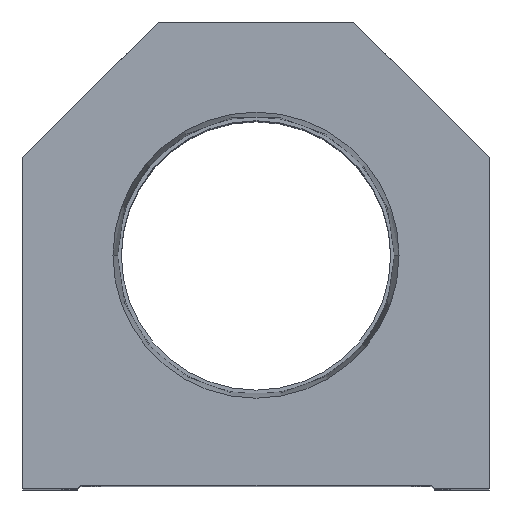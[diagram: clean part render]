
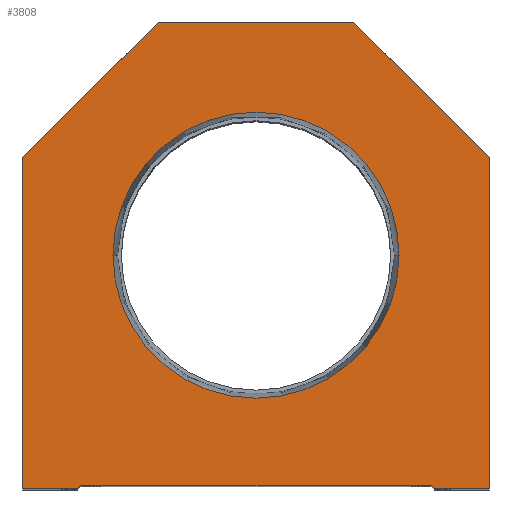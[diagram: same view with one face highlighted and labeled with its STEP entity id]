
A CAD part, top view. The second image highlights one B-rep face of the part: STEP entity #3808.
In plain terms, the highlighted planar face has unit normal (0, 0, 1).
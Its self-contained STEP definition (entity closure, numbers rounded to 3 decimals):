
#118 = CARTESIAN_POINT ( 'NONE',  ( 29.1, 0., 0. ) ) ;
#178 = LINE ( 'NONE', #8026, #19433 ) ;
#514 = CARTESIAN_POINT ( 'NONE',  ( -28.6, 0.5, 0. ) ) ;
#520 = EDGE_CURVE ( 'NONE', #16149, #2068, #6796, .T. ) ;
#555 = VERTEX_POINT ( 'NONE', #10152 ) ;
#593 = EDGE_CURVE ( 'NONE', #16658, #1455, #178, .T. ) ;
#652 = VECTOR ( 'NONE', #17165, 1000. ) ;
#1197 = FACE_OUTER_BOUND ( 'NONE', #16635, .T. ) ;
#1455 = VERTEX_POINT ( 'NONE', #6357 ) ;
#1544 = VECTOR ( 'NONE', #9316, 1000. ) ;
#1639 = ORIENTED_EDGE ( 'NONE', *, *, #7529, .F. ) ;
#1863 = CARTESIAN_POINT ( 'NONE',  ( -38.1, 54.1, 0. ) ) ;
#1914 = CARTESIAN_POINT ( 'NONE',  ( -28.6, 0.5, 0. ) ) ;
#2068 = VERTEX_POINT ( 'NONE', #9259 ) ;
#2313 = DIRECTION ( 'NONE',  ( 0.707, -0.707, 0. ) ) ;
#2501 = EDGE_CURVE ( 'NONE', #16608, #19565, #13563, .T. ) ;
#2530 = EDGE_CURVE ( 'NONE', #3235, #7613, #10860, .T. ) ;
#3235 = VERTEX_POINT ( 'NONE', #118 ) ;
#3338 = LINE ( 'NONE', #6369, #11988 ) ;
#3415 = DIRECTION ( 'NONE',  ( -0.707, 0.707, 0. ) ) ;
#3808 = ADVANCED_FACE ( 'NONE', ( #17285, #1197 ), #20113, .T. ) ;
#3879 = LINE ( 'NONE', #8488, #4481 ) ;
#4303 = CARTESIAN_POINT ( 'NONE',  ( -38.1, 0., 0. ) ) ;
#4481 = VECTOR ( 'NONE', #2313, 1000. ) ;
#4548 = DIRECTION ( 'NONE',  ( 1., 0., 0. ) ) ;
#5084 = VECTOR ( 'NONE', #13153, 1000. ) ;
#5138 = CARTESIAN_POINT ( 'NONE',  ( -23.374, 38.1, 0. ) ) ;
#5225 = DIRECTION ( 'NONE',  ( 1., 0., 0. ) ) ;
#5238 = CARTESIAN_POINT ( 'NONE',  ( 38.1, 54.1, 0. ) ) ;
#6002 = EDGE_LOOP ( 'NONE', ( #1639, #10925 ) ) ;
#6032 = DIRECTION ( 'NONE',  ( 0., 0., 1. ) ) ;
#6054 = CARTESIAN_POINT ( 'NONE',  ( 0., 38.1, 0. ) ) ;
#6237 = CARTESIAN_POINT ( 'NONE',  ( -16., 76.2, 0. ) ) ;
#6357 = CARTESIAN_POINT ( 'NONE',  ( 16., 76.2, 0. ) ) ;
#6369 = CARTESIAN_POINT ( 'NONE',  ( 38.1, 0., 0. ) ) ;
#6374 = LINE ( 'NONE', #10872, #19325 ) ;
#6796 = LINE ( 'NONE', #514, #5084 ) ;
#6907 = ORIENTED_EDGE ( 'NONE', *, *, #593, .T. ) ;
#7421 = DIRECTION ( 'NONE',  ( 1., 0., 0. ) ) ;
#7529 = EDGE_CURVE ( 'NONE', #19565, #16608, #8431, .T. ) ;
#7613 = VERTEX_POINT ( 'NONE', #7855 ) ;
#7855 = CARTESIAN_POINT ( 'NONE',  ( 38.1, 0., 0. ) ) ;
#8026 = CARTESIAN_POINT ( 'NONE',  ( 38.1, 54.1, 0. ) ) ;
#8287 = AXIS2_PLACEMENT_3D ( 'NONE', #14922, #10249, #5225 ) ;
#8431 = CIRCLE ( 'NONE', #20087, 23.374 ) ;
#8488 = CARTESIAN_POINT ( 'NONE',  ( 14.55, 14.55, 0. ) ) ;
#8554 = DIRECTION ( 'NONE',  ( -0.707, -0.707, 0. ) ) ;
#9189 = EDGE_CURVE ( 'NONE', #2068, #3235, #3879, .T. ) ;
#9242 = CARTESIAN_POINT ( 'NONE',  ( 16., 76.2, 0. ) ) ;
#9259 = CARTESIAN_POINT ( 'NONE',  ( 28.6, 0.5, 0. ) ) ;
#9316 = DIRECTION ( 'NONE',  ( 1., 0., 0. ) ) ;
#9480 = VERTEX_POINT ( 'NONE', #1863 ) ;
#9637 = DIRECTION ( 'NONE',  ( 0.707, 0.707, 0. ) ) ;
#9701 = VECTOR ( 'NONE', #8554, 1000. ) ;
#9918 = ORIENTED_EDGE ( 'NONE', *, *, #15688, .T. ) ;
#10152 = CARTESIAN_POINT ( 'NONE',  ( -29.1, 0., 0. ) ) ;
#10249 = DIRECTION ( 'NONE',  ( 0., 0., 1. ) ) ;
#10499 = DIRECTION ( 'NONE',  ( -1., 0., 0. ) ) ;
#10818 = LINE ( 'NONE', #12371, #652 ) ;
#10860 = LINE ( 'NONE', #18682, #1544 ) ;
#10872 = CARTESIAN_POINT ( 'NONE',  ( -14.55, 14.55, 0. ) ) ;
#10925 = ORIENTED_EDGE ( 'NONE', *, *, #2501, .F. ) ;
#11907 = LINE ( 'NONE', #12210, #14324 ) ;
#11988 = VECTOR ( 'NONE', #20353, 1000. ) ;
#12210 = CARTESIAN_POINT ( 'NONE',  ( -28.6, 0., 0. ) ) ;
#12371 = CARTESIAN_POINT ( 'NONE',  ( -38.1, 0., 0. ) ) ;
#12483 = CARTESIAN_POINT ( 'NONE',  ( 0., 0., 0. ) ) ;
#13153 = DIRECTION ( 'NONE',  ( 1., 0., 0. ) ) ;
#13273 = VERTEX_POINT ( 'NONE', #6237 ) ;
#13359 = ORIENTED_EDGE ( 'NONE', *, *, #16053, .T. ) ;
#13563 = CIRCLE ( 'NONE', #8287, 23.374 ) ;
#13970 = VECTOR ( 'NONE', #10499, 1000. ) ;
#14198 = ORIENTED_EDGE ( 'NONE', *, *, #16027, .T. ) ;
#14222 = ORIENTED_EDGE ( 'NONE', *, *, #20028, .T. ) ;
#14324 = VECTOR ( 'NONE', #20234, 1000. ) ;
#14500 = LINE ( 'NONE', #19613, #9701 ) ;
#14767 = VERTEX_POINT ( 'NONE', #4303 ) ;
#14922 = CARTESIAN_POINT ( 'NONE',  ( 0., 38.1, 0. ) ) ;
#15256 = LINE ( 'NONE', #9242, #13970 ) ;
#15515 = EDGE_CURVE ( 'NONE', #1455, #13273, #15256, .T. ) ;
#15688 = EDGE_CURVE ( 'NONE', #14767, #555, #11907, .T. ) ;
#15793 = EDGE_CURVE ( 'NONE', #7613, #16658, #3338, .T. ) ;
#16027 = EDGE_CURVE ( 'NONE', #13273, #9480, #14500, .T. ) ;
#16053 = EDGE_CURVE ( 'NONE', #9480, #14767, #10818, .T. ) ;
#16149 = VERTEX_POINT ( 'NONE', #1914 ) ;
#16276 = ORIENTED_EDGE ( 'NONE', *, *, #15793, .T. ) ;
#16608 = VERTEX_POINT ( 'NONE', #5138 ) ;
#16635 = EDGE_LOOP ( 'NONE', ( #9918, #14222, #19923, #17288, #20608, #16276, #6907, #18484, #14198, #13359 ) ) ;
#16658 = VERTEX_POINT ( 'NONE', #5238 ) ;
#17165 = DIRECTION ( 'NONE',  ( 0., -1., 0. ) ) ;
#17285 = FACE_BOUND ( 'NONE', #6002, .T. ) ;
#17288 = ORIENTED_EDGE ( 'NONE', *, *, #9189, .T. ) ;
#17456 = CARTESIAN_POINT ( 'NONE',  ( 23.374, 38.1, 0. ) ) ;
#17973 = AXIS2_PLACEMENT_3D ( 'NONE', #12483, #6032, #4548 ) ;
#18469 = DIRECTION ( 'NONE',  ( 0., 0., 1. ) ) ;
#18484 = ORIENTED_EDGE ( 'NONE', *, *, #15515, .T. ) ;
#18682 = CARTESIAN_POINT ( 'NONE',  ( 28.6, 0., 0. ) ) ;
#19325 = VECTOR ( 'NONE', #9637, 1000. ) ;
#19433 = VECTOR ( 'NONE', #3415, 1000. ) ;
#19565 = VERTEX_POINT ( 'NONE', #17456 ) ;
#19613 = CARTESIAN_POINT ( 'NONE',  ( -38.1, 54.1, 0. ) ) ;
#19923 = ORIENTED_EDGE ( 'NONE', *, *, #520, .T. ) ;
#20028 = EDGE_CURVE ( 'NONE', #555, #16149, #6374, .T. ) ;
#20087 = AXIS2_PLACEMENT_3D ( 'NONE', #6054, #18469, #7421 ) ;
#20113 = PLANE ( 'NONE',  #17973 ) ;
#20234 = DIRECTION ( 'NONE',  ( 1., 0., 0. ) ) ;
#20353 = DIRECTION ( 'NONE',  ( 0., 1., 0. ) ) ;
#20608 = ORIENTED_EDGE ( 'NONE', *, *, #2530, .T. ) ;
